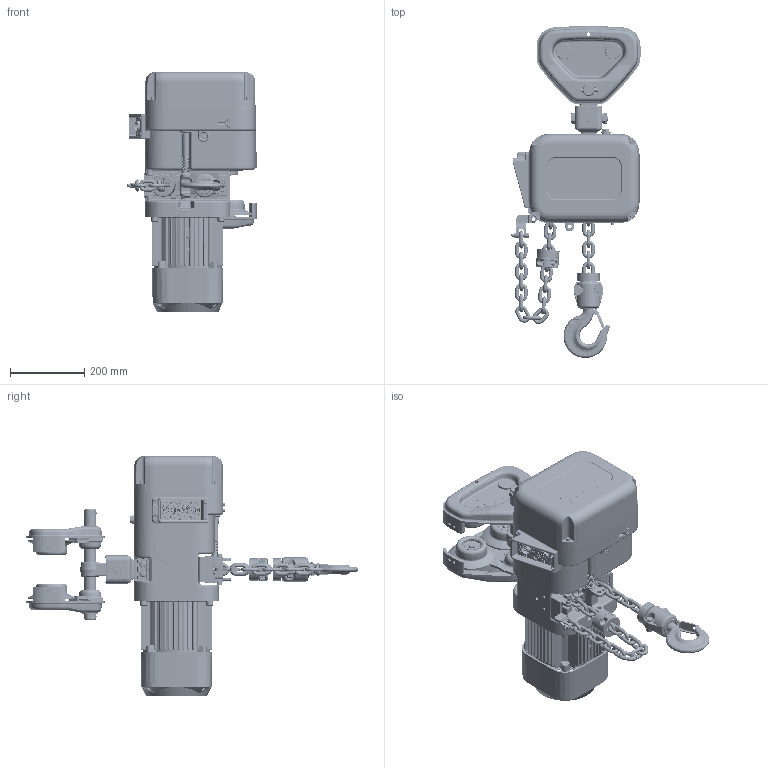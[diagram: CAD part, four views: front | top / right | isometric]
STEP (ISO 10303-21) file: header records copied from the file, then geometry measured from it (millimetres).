
FILE_DESCRIPTION (( 'STEP AP214' ), '1' );
FILE_NAME ('NER2P015S.STEP', '2026-08-04T18:01:27', ( '' ), ( '' ), 'SwSTEP 2.0', 'SolidWorks 2026', '' );
FILE_SCHEMA (( 'AUTOMOTIVE_DESIGN' ));
Length unit declared in the file: inch
Products named in the file (71): Socket Head Cap Screw_AM_B18.3.1M - 6 x 1.0 x 12 Hex SHCS -- 12CHX; ER2EM9015; NER2015S_SUSPENDER E FOR PUSH TROLLEY; T6G800020P; single coil rectangular section spring washer_bsi_9012711; ER1ES9053; ER2CS2564; ER2BHM20S9A5; T7GB004020; T6G156020; ER2EL9103; MS104020; ER2EM2015; T6GA0209102; Socket Head Cap Screw_AM_B18.3.1M - 5 x 0.8 x 25 Hex SHCS -- 25NHX; 90912116_90912116; ENDS2E; MS561010; ER2EM9011; ES857005S; J1BG10604040_J1BG10604040; 9009436_9009436; ER2ES2523; ER2EL9105; T7GA0205112; J1NA001-20100_B18.2.4.1M - Hex nut, Style 1,  M10 x 1.5, with 16mm WAF --D-C; 9009432_9009432; ER1BS9535; M6F554010; 6304Z Bearing; E3S111003; T6GA0209113; ER2CS9511; NER2P015S; ER2ES9186; T7GA0209141; LCER2020NP_10 LINKS; ER2EM1002; basic external retaining ring_am_9047120; ER2ES9337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
Assembly tree (142 placements, depth 5):
  NER2P015S
    NER2015S_SUSPENDER E FOR PUSH TROLLEY
      ER2ES9104_ER2ES9104
      ER2EL9103
      ER2ES9101
      ER2EL9105
      ER2DS9107_ER2DS9107
      ER2EM1011
        ER2EM9011
        ER2EM1002
        ER2EM2015
          ER2EM9015  x2
          J1BY9-1003526_B18.2.3.1M - Hex cap screw, M10 x 1.5 x 35 --35C  x2
          J1WS011-20100_Rectangular section spring washer BS 4464 - 16 (Type B)  x2
          J1NA001-20100_B18.2.4.1M - Hex nut, Style 1,  M10 x 1.5, with 16mm WAF --D-C  x2
      ER2ES9121  x2
      ER2ES9186
      ER2ES9123
      Socket Head Cap Screw_AM_B18.3.1M - 6 x 1.0 x 12 Hex SHCS -- 12CHX
      ER2CS9511
      J1BG10604040_J1BG10604040  x4
      90912116_90912116  x4
      9091234_B18.3.1M - 5 x 0.8 x 45 Hex SHCS -- 22CHX  x4
      E3S111003
      E3S112003
      ER1BS9135
      ES127005S
      ER2EL9338
      ER2CS9357
      ER2ES9337
      single coil rectangular section spring washer_bsi_9012711  x4
      Socket Head Cap Screw_AM_B18.3.1M - 5 x 0.8 x 25 Hex SHCS -- 25NHX  x4
      LCER2020NP_10 LINKS
        LCER2020NP  x10
      ER2ES2523
      ER2CS2564
      MS561010  x6
      ER2BHM20S9A5
      ER2BHM15M9A6
      ER2ES9331
      ER1BS9535
      M6F554010  x2
      ER1ES9053  x2
      ER2ES9027
      T7GB004020
      ER1ES9032
      ES088020L_ES088020
      9009436_9009436
      LCER2020NP (SHAPED 2)
        LCER2020NP  x23
      ENDS2E
        ER2ES9408
        90912152_B18.3.1M - 8 x 1.25 x 40 Hex SHCS -- 40CHX
        ES857005S
      ER1ES1041
    PTS2020_5"
      T7GA0205112  x2
        T6GA0209112
        T6GA0209113
        T6GA0209103
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Bounding box: 347.5 x 894.09 x 646 mm (x, y, z)
Volume: 23373281.7 mm3; surface area: 2707217.2 mm2
Topology: 155 solids, 172 shells, 8478 faces, 21872 edges, 13799 vertices
Faces by surface type: plane 3206, cylinder 2902, torus 997, bspline 608, cone 556, sphere 209
Entity records: 218948 total; most frequent: CARTESIAN_POINT 76339, ORIENTED_EDGE 28834, DIRECTION 28719, EDGE_CURVE 14419, AXIS2_PLACEMENT_3D 11130, VERTEX_POINT 9225, LINE 6459, VECTOR 6459
